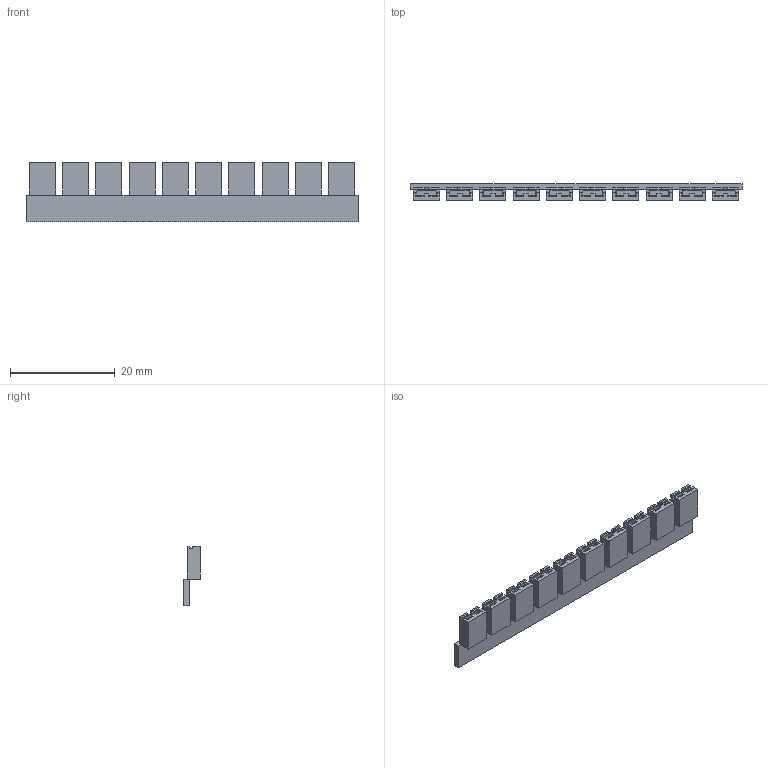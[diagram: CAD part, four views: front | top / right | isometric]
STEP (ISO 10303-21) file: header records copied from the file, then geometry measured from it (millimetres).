
FILE_DESCRIPTION((''),'2;1');
FILE_NAME('C-1-382811-6','2017-04-03T',('workeradm'),('Tyco Electronics Ltd.'),'CREO PARAMETRIC BY PTC INC, 2016050','CREO PARAMETRIC BY PTC INC, 2016050','');
FILE_SCHEMA(('AUTOMOTIVE_DESIGN { 1 0 10303 214 1 1 1 1 }'));
Length unit declared in the file: millimetre
Products named in the file (1): C-1-382811-6
Bounding box: 63.45 x 3.15 x 11.37 mm (x, y, z)
Volume: 1028.4 mm3; surface area: 2143 mm2
Topology: 1 solids, 1 shells, 666 faces, 1882 edges, 1208 vertices
Faces by surface type: plane 646, cylinder 20
Entity records: 21203 total; most frequent: ORIENTED_EDGE 3764, CARTESIAN_POINT 3758, DIRECTION 3254, EDGE_CURVE 1882, VECTOR 1842, LINE 1842, VERTEX_POINT 1208, AXIS2_PLACEMENT_3D 706
